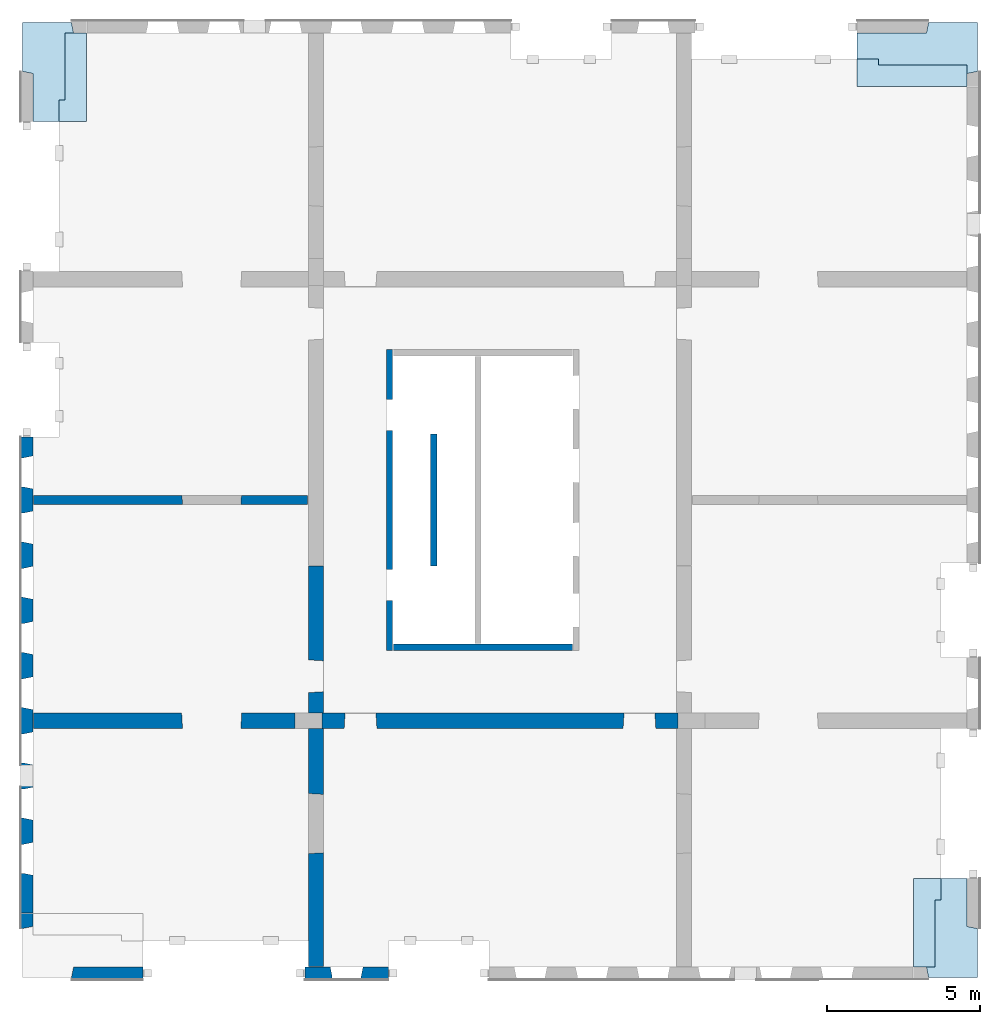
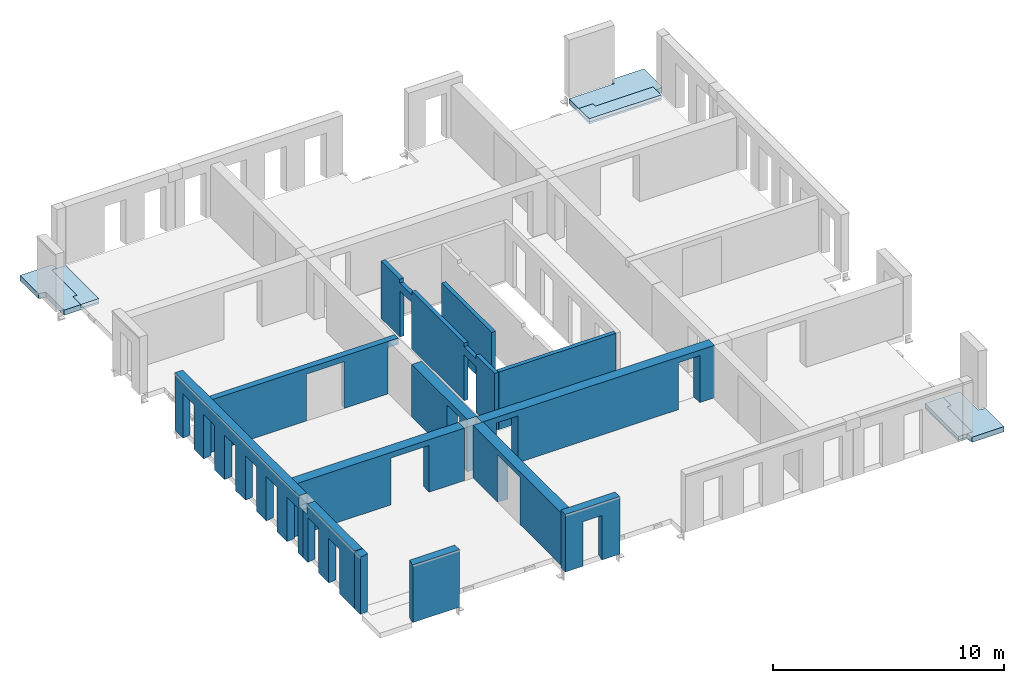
# One storey, part 2 of 5: 13 walls, 6 slabs, 24 openings.
"""IFC2X3 building model written with IfcOpenShell, lengths in millimetres."""

from ifc_helpers import new_model, entity, si_unit, converted_unit, derived_unit, direction, frame, frame_2d, origin, origin_2d_with_axis, place, context, subcontext, project, spatial, polyline, rectangle, outline, extrude, faceted_brep, material, layer, layer_set, layer_usage, type_object, element, save


model = new_model("IFC2X3")

# Units and contexts
model_context = context("Model", 3, precision=0.01, world=origin(), true_north=direction((6.12303176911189e-17, 1.0)))
body_context = subcontext(model_context, "Body", "Model", "MODEL_VIEW")
ifc_project = project(units=[si_unit("LENGTHUNIT", "METRE", prefix="MILLI"), si_unit("AREAUNIT", "SQUARE_METRE"), si_unit("VOLUMEUNIT", "CUBIC_METRE"), converted_unit("PLANEANGLEUNIT", "DEGREE", entity("IfcRatioMeasure", 0.0174532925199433), si_unit("PLANEANGLEUNIT", "RADIAN"), dimensions=[0, 0, 0, 0, 0, 0, 0]), si_unit("MASSUNIT", "GRAM", prefix="KILO"), derived_unit("MASSDENSITYUNIT", [(si_unit("MASSUNIT", "GRAM", prefix="KILO"), 1), (si_unit("LENGTHUNIT", "METRE"), -3)]), si_unit("TIMEUNIT", "SECOND"), si_unit("FREQUENCYUNIT", "HERTZ"), si_unit("THERMODYNAMICTEMPERATUREUNIT", "DEGREE_CELSIUS"), derived_unit("THERMALTRANSMITTANCEUNIT", [(si_unit("MASSUNIT", "GRAM", prefix="KILO"), 1), (si_unit("THERMODYNAMICTEMPERATUREUNIT", "KELVIN"), -1), (si_unit("TIMEUNIT", "SECOND"), -3)]), derived_unit("VOLUMETRICFLOWRATEUNIT", [(si_unit("LENGTHUNIT", "METRE"), 3), (si_unit("TIMEUNIT", "SECOND"), -1)]), si_unit("ELECTRICCURRENTUNIT", "AMPERE"), si_unit("ELECTRICVOLTAGEUNIT", "VOLT"), si_unit("POWERUNIT", "WATT"), si_unit("FORCEUNIT", "NEWTON", prefix="KILO"), si_unit("ILLUMINANCEUNIT", "LUX"), si_unit("LUMINOUSFLUXUNIT", "LUMEN"), si_unit("LUMINOUSINTENSITYUNIT", "CANDELA"), derived_unit("USERDEFINED", [(si_unit("MASSUNIT", "GRAM", prefix="KILO"), -1), (si_unit("LENGTHUNIT", "METRE"), -2), (si_unit("TIMEUNIT", "SECOND"), 3), (si_unit("LUMINOUSFLUXUNIT", "LUMEN"), 1)]), derived_unit("LINEARVELOCITYUNIT", [(si_unit("LENGTHUNIT", "METRE"), 1), (si_unit("TIMEUNIT", "SECOND"), -1)]), si_unit("PRESSUREUNIT", "PASCAL"), derived_unit("USERDEFINED", [(si_unit("LENGTHUNIT", "METRE"), -2), (si_unit("MASSUNIT", "GRAM", prefix="KILO"), 1), (si_unit("TIMEUNIT", "SECOND"), -2)])], contexts=[model_context])

# Site, building, storey
site_placement = place(None, origin())
site = spatial("IfcSite", under=ifc_project, at=site_placement, Name="Default", CompositionType="ELEMENT")
building_placement = place(site_placement, origin())
building = spatial("IfcBuilding", under=site, at=building_placement, Name="niet gebruiken", CompositionType="ELEMENT")
storey_placement = place(building_placement, frame((0.0, 0.0, 24120.0)))
storey = spatial("IfcBuildingStorey", under=building, at=storey_placement, Name="07 zevende verdieping", CompositionType="ELEMENT", Elevation=24120.0)

# Slabs
ifc_material_1 = material(Name="NLRS_f2_beton prefab")
ifc_layer_1 = layer(ifc_material_1, 270.0)
ifc_layer_set_1 = layer_set([ifc_layer_1], Name="Floor:NLRS_23.22_FL_beton prefab d=270 3D element_gen")
ifc_layer_usage_1 = layer_usage(ifc_layer_set_1, "AXIS3", "POSITIVE", 0.0)
slab_1_placement = place(storey_placement, origin())
element("IfcSlab", 1, at=slab_1_placement, inside=storey, material=ifc_layer_usage_1, Name="Floor:NLRS_23.22_FL_beton prefab d=270 3D element_gen", ObjectType="Floor:NLRS_23.22_FL_beton prefab d=270 3D element_gen", PredefinedType="LANDING", context=body_context, shape_type="SweptSolid", body=[
    extrude(outline(polyline([(-962.01841692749, -1072.98158307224), (1927.98158307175, -1072.98158307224), (1927.98158307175, 677.018416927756), (362.981583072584, 677.018416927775), (295.128918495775, 1010.01841692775), (-1295.01841692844, 1010.01841692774), (-1295.01841692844, -580.128918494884), (-962.01841692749, -647.98158307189), (-962.01841692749, -1072.98158307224)])), frame((156302.981583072, 3232.01841692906, -90.0), z_axis=(0.0, 0.0, -1.0), x_axis=(0.0, 1.0, 0.0)), (0.0, 0.0, 1.0), 269.999999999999),
])
ifc_layer_usage_2 = layer_usage(ifc_layer_set_1, "AXIS3", "POSITIVE", 0.0)
slab_2_placement = place(storey_placement, origin())
element("IfcSlab", 2, at=slab_2_placement, inside=storey, material=ifc_layer_usage_2, Name="Floor:NLRS_23.22_FL_beton prefab d=270 3D element_gen", ObjectType="Floor:NLRS_23.22_FL_beton prefab d=270 3D element_gen", PredefinedType="LANDING", context=body_context, shape_type="SweptSolid", body=[
    extrude(outline(polyline([(-295.128918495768, -1010.0184169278), (1295.01841692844, -1010.0184169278), (1295.01841692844, 580.128918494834), (962.018416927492, 647.98158307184), (962.018416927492, 1072.98158307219), (-1927.98158307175, 1072.98158307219), (-1927.98158307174, -677.018416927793), (-362.981583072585, -677.018416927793), (-295.128918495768, -1010.0184169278)])), frame((127197.018416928, 31767.9815830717, -90.0), z_axis=(0.0, 0.0, -1.0), x_axis=(0.0, 1.0, 0.0)), (0.0, 0.0, 1.0), 269.999999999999),
])
ifc_layer_usage_3 = layer_usage(ifc_layer_set_1, "AXIS3", "POSITIVE", 0.0)
slab_3_placement = place(storey_placement, origin())
element("IfcSlab", 3, at=slab_3_placement, inside=storey, material=ifc_layer_usage_3, Name="Floor:NLRS_23.22_FL_beton prefab d=270 3D element_gen", ObjectType="Floor:NLRS_23.22_FL_beton prefab d=270 3D element_gen", PredefinedType="LANDING", context=body_context, shape_type="SweptSolid", body=[
    extrude(outline(polyline([(-1072.98158307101, -2452.9815830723), (677.018416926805, -2452.9815830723), (677.018416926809, -187.981583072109), (1010.01841692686, -120.128918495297), (1010.01841692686, 1470.01841692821), (-580.128918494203, 1470.01841692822), (-647.981583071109, 1137.01841692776), (-1072.981583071, 1137.01841692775), (-1072.98158307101, -2452.9815830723)])), frame((155842.981583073, 32052.9815830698, -90.0), z_axis=(0.0, 0.0, -1.0), x_axis=(0.0, 1.0, 0.0)), (0.0, 0.0, 1.0), 269.999999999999),
])
ifc_material_2 = material(Name="NLRS_f2_beton ihwg")
ifc_layer_2 = layer(ifc_material_2, 170.0)
ifc_layer_set_2 = layer_set([ifc_layer_2], Name="Floor:NLRS_23.21_FL_beton ihwg d=170_gen")
ifc_layer_usage_4 = layer_usage(ifc_layer_set_2, "AXIS3", "POSITIVE", 0.0)
slab_4_placement = place(storey_placement, origin())
element("IfcSlab", 4, at=slab_4_placement, inside=storey, material=ifc_layer_usage_4, Name="Floor:NLRS_23.21_FL_beton ihwg d=170_gen", ObjectType="Floor:NLRS_23.21_FL_beton ihwg d=170_gen", PredefinedType="FLOOR", context=body_context, shape_type="SweptSolid", body=[
    extrude(outline(polyline([(-533.333333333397, -1430.0), (366.666666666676, -1430.0), (366.666666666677, -730.0), (166.666666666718, -730.0), (166.666666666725, 2160.0), (-533.333333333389, 2160.0), (-533.333333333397, -1430.0)])), frame((154820.0, 31513.3333333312, -90.0), z_axis=(0.0, 0.0, -1.0), x_axis=(0.0, 1.0, 0.0)), (0.0, 0.0, 1.0), 170.0),
])
ifc_layer_usage_5 = layer_usage(ifc_layer_set_2, "AXIS3", "POSITIVE", 0.0)
slab_5_placement = place(storey_placement, origin())
element("IfcSlab", 5, at=slab_5_placement, inside=storey, material=ifc_layer_usage_5, Name="Floor:NLRS_23.21_FL_beton ihwg d=170_gen", ObjectType="Floor:NLRS_23.21_FL_beton ihwg d=170_gen", PredefinedType="FLOOR", context=body_context, shape_type="SweptSolid", body=[
    extrude(outline(polyline([(-1693.33333333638, -533.333333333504), (1196.66666666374, -533.333333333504), (1196.66666666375, 366.666666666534), (496.666666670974, 366.666666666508), (496.666666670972, 166.666666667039), (-1693.33333333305, 166.666666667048), (-1693.33333333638, -533.333333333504)])), frame((155763.333333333, 3963.33333333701, -90.0), z_axis=(0.0, 0.0, -1.0), x_axis=(0.0, 1.0, 0.0)), (0.0, 0.0, 1.0), 170.0),
])
ifc_layer_usage_6 = layer_usage(ifc_layer_set_2, "AXIS3", "POSITIVE", 0.0)
slab_6_placement = place(storey_placement, origin())
element("IfcSlab", 6, at=slab_6_placement, inside=storey, material=ifc_layer_usage_6, Name="Floor:NLRS_23.21_FL_beton ihwg d=170_gen", ObjectType="Floor:NLRS_23.21_FL_beton ihwg d=170_gen", PredefinedType="FLOOR", context=body_context, shape_type="SweptSolid", body=[
    extrude(outline(polyline([(-1196.66666666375, -366.666666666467), (-496.666666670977, -366.666666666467), (-496.666666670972, -166.666666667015), (1693.33333333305, -166.666666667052), (1693.33333333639, 533.333333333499), (-1196.66666666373, 533.333333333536), (-1196.66666666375, -366.666666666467)])), frame((127736.666666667, 31036.6666666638, -90.0), z_axis=(0.0, 0.0, -1.0), x_axis=(0.0, 1.0, 0.0)), (0.0, 0.0, 1.0), 170.0),
])

# Wall, openings
ifc_layer_3 = layer(ifc_material_1, 200.0)
ifc_layer_set_3 = layer_set([ifc_layer_3], Name="Basic Wall:NLRS_22.21_WA_beton prefab d=200_gen")
ifc_layer_usage_7 = layer_usage(ifc_layer_set_3, "AXIS2", "NEGATIVE", 100.0)
wall_type_1 = type_object("IfcWallType", Name="Basic Wall:NLRS_22.21_WA_beton prefab d=200_gen", PredefinedType="STANDARD", material=ifc_layer_set_3)
wall_1_placement = place(storey_placement, frame((138150.0, 22400.0, -50.0), z_axis=(0.0, 0.0, 1.0), x_axis=(0.0, -1.0, 0.0)))
wall_1 = element("IfcWallStandardCase", 7, at=wall_1_placement, inside=storey, type_object=wall_type_1, material=ifc_layer_usage_7, Name="Basic Wall:NLRS_22.21_WA_beton prefab d=200_gen", ObjectType="Basic Wall:NLRS_22.21_WA_beton prefab d=200_gen", context=body_context, shape_type="SweptSolid", body=[
    extrude(rectangle(XDim=9800.0, YDim=199.999999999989, at=frame_2d((4900.0, 3.76587649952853e-13), x_axis=(-1.0, 0.0))), origin(), (0.0, 0.0, 1.0), 3039.99999999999),
])
opening_1_placement = place(wall_1_placement, origin())
element("IfcOpeningElement", 8, at=opening_1_placement, cuts=wall_1, Name="Basic Wall:NLRS_22.21_WA_beton prefab d=200_gen", ObjectType="Opening", context=body_context, shape_type="SweptSolid", body=[
    extrude(rectangle(XDim=199.999999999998, YDim=1044.0, at=origin_2d_with_axis()), frame((7672.0, -100.0, 2940.0), z_axis=(0.0, 1.0, 0.0), x_axis=(0.0, 0.0, -1.0)), (0.0, 0.0, 1.0), 199.999999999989),
])
opening_2_placement = place(wall_1_placement, origin())
element("IfcOpeningElement", 9, at=opening_2_placement, cuts=wall_1, Name="Basic Wall:NLRS_22.21_WA_beton prefab d=200_gen", ObjectType="Opening", context=body_context, shape_type="SweptSolid", body=[
    extrude(rectangle(XDim=199.999999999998, YDim=1044.0, at=frame_2d((0.0, 2.1600499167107e-12), x_axis=(1.0, 0.0))), frame((2128.0, -100.0, 2940.0), z_axis=(0.0, 1.0, 0.0), x_axis=(0.0, 0.0, -1.0)), (0.0, 0.0, 1.0), 199.999999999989),
])
opening_3_placement = place(wall_1_placement, origin())
element("IfcOpeningElement", 10, at=opening_3_placement, cuts=wall_1, Name="Basic Wall:NLRS_22.21_WA_beton prefab d=200_gen", ObjectType="Opening", context=body_context, shape_type="SweptSolid", body=[
    extrude(rectangle(XDim=2435.00000000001, YDim=1015.99999999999, at=frame_2d((0.0, 1.10844666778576e-12), x_axis=(1.0, 0.0))), frame((7672.0, -100.0, 1217.50000000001), z_axis=(0.0, 1.0, 0.0), x_axis=(0.0, 0.0, -1.0)), (0.0, 0.0, 1.0), 199.999999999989),
])
opening_4_placement = place(wall_1_placement, origin())
element("IfcOpeningElement", 11, at=opening_4_placement, cuts=wall_1, Name="Basic Wall:NLRS_22.21_WA_beton prefab d=200_gen", ObjectType="Opening", context=body_context, shape_type="SweptSolid", body=[
    extrude(rectangle(XDim=2435.00000000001, YDim=1015.99999999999, at=frame_2d((0.0, -2.18847162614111e-12), x_axis=(1.0, 0.0))), frame((2128.0, -100.0, 1217.50000000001), z_axis=(0.0, 1.0, 0.0), x_axis=(0.0, 0.0, -1.0)), (0.0, 0.0, 1.0), 199.999999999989),
])

# Walls
ifc_layer_usage_8 = layer_usage(ifc_layer_set_3, "AXIS2", "NEGATIVE", 100.0)
wall_2_placement = place(storey_placement, frame((139590.0, 19660.0, -50.0), z_axis=(0.0, 0.0, 1.0), x_axis=(0.0, -1.0, 0.0)))
element("IfcWallStandardCase", 12, at=wall_2_placement, inside=storey, type_object=wall_type_1, material=ifc_layer_usage_8, Name="Basic Wall:NLRS_22.21_WA_beton prefab d=200_gen", ObjectType="Basic Wall:NLRS_22.21_WA_beton prefab d=200_gen", context=body_context, shape_type="SweptSolid", body=[
    extrude(rectangle(XDim=4320.00000000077, YDim=199.999999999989, at=frame_2d((2160.00000000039, 0.0), x_axis=(-1.0, 0.0))), origin(), (0.0, 0.0, 1.0), 3039.99999999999),
])
ifc_layer_usage_9 = layer_usage(ifc_layer_set_3, "AXIS2", "NEGATIVE", 100.0)
wall_3_placement = place(storey_placement, frame((138270.0, 12700.0, -50.0)))
element("IfcWallStandardCase", 13, at=wall_3_placement, inside=storey, type_object=wall_type_1, material=ifc_layer_usage_9, Name="Basic Wall:NLRS_22.21_WA_beton prefab d=200_gen", ObjectType="Basic Wall:NLRS_22.21_WA_beton prefab d=200_gen", context=body_context, shape_type="SweptSolid", body=[
    extrude(rectangle(XDim=5839.99999999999, YDim=199.999999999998, at=frame_2d((2919.99999999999, -6.82121026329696e-13), x_axis=(-1.0, 0.0))), origin(), (0.0, 0.0, 1.0), 3039.99999999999),
])

# Wall, openings
ifc_layer_4 = layer(ifc_material_1, 300.0)
ifc_layer_set_4 = layer_set([ifc_layer_4], Name="Basic Wall:NLRS_22.21_WA_beton prefab d=300_gen")
ifc_layer_usage_10 = layer_usage(ifc_layer_set_4, "AXIS2", "NEGATIVE", 150.0)
wall_type_2 = type_object("IfcWallType", Name="Basic Wall:NLRS_22.21_WA_beton prefab d=300_gen", PredefinedType="STANDARD", material=ifc_layer_set_4)
wall_4_placement = place(storey_placement, frame((126540.0, 17500.0, -70.0)))
wall_4 = element("IfcWallStandardCase", 14, at=wall_4_placement, inside=storey, type_object=wall_type_2, material=ifc_layer_usage_10, Name="Basic Wall:NLRS_22.21_WA_beton prefab d=300_gen", ObjectType="Basic Wall:NLRS_22.21_WA_beton prefab d=300_gen", context=body_context, shape_type="SweptSolid", body=[
    extrude(rectangle(XDim=9459.99999999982, YDim=300.000000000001, at=frame_2d((4729.99999999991, 2.27373675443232e-13), x_axis=(-1.0, 0.0))), origin(), (0.0, 0.0, 1.0), 2770.0),
])
opening_5_placement = place(wall_4_placement, frame((4842.0, -150.0, 0.0)))
element("IfcOpeningElement", 15, at=opening_5_placement, cuts=wall_4, Name="Basic Wall:NLRS_22.21_WA_beton prefab d=300_gen", ObjectType="Opening", context=body_context, shape_type="Brep", body=[
    faceted_brep([(1918.0, 0.0, 2470.0), (18.0, 0.0, 2470.0), (18.0, 0.0, 0.0), (1918.0, 0.0, 0.0), (1936.0, 300.0, 2488.0), (1936.0, 300.0, 0.0), (0.0, 300.0, 0.0), (0.0, 300.0, 2488.0)], [[[0, 1, 2, 3]], [[4, 5, 6, 7]], [[4, 7, 1, 0]], [[7, 6, 2, 1]], [[6, 5, 3, 2]], [[5, 4, 0, 3]]]),
])
opening_6_placement = place(wall_4_placement, origin())
element("IfcOpeningElement", 16, at=opening_6_placement, cuts=wall_4, Name="Basic Wall:NLRS_22.21_WA_beton prefab d=300_gen", ObjectType="Opening", context=body_context, shape_type="SweptSolid", body=[
    extrude(rectangle(XDim=2440.0, YDim=520.000000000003, at=frame_2d((8.64019966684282e-12, 2.1600499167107e-12), x_axis=(0.0, 1.0))), frame((9200.0, 150.0, 1220.0), z_axis=(0.0, -1.0, 0.0), x_axis=(1.0, 0.0, 0.0)), (0.0, 0.0, 1.0), 300.0),
])

# Wall, opening
ifc_layer_5 = layer(ifc_material_1, 400.0)
ifc_layer_set_5 = layer_set([ifc_layer_5], Name="Basic Wall:NLRS_21.21_WA_beton prefab d=400/420_gen")
ifc_layer_usage_11 = layer_usage(ifc_layer_set_5, "AXIS2", "NEGATIVE", 200.0)
wall_type_3 = type_object("IfcWallType", Name="Basic Wall:NLRS_21.21_WA_beton prefab d=400/420_gen", PredefinedType="STANDARD", material=ifc_layer_set_5)
wall_5_placement = place(storey_placement, frame((130110.0, 2070.0, -50.0), z_axis=(0.0, 0.0, 1.0), x_axis=(-1.0, 0.0, 0.0)))
wall_5 = element("IfcWallStandardCase", 17, at=wall_5_placement, inside=storey, type_object=wall_type_3, material=ifc_layer_usage_11, Name="Basic Wall:NLRS_21.21_WA_beton prefab d=400/420_gen", ObjectType="Basic Wall:NLRS_21.21_WA_beton prefab d=400/420_gen", context=body_context, shape_type="SweptSolid", body=[
    extrude(rectangle(XDim=2330.00000000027, YDim=400.0, at=frame_2d((1165.00000000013, -4.2632564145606e-14), x_axis=(-1.0, 0.0))), origin(), (0.0, 0.0, 1.0), 3040.0),
])
opening_7_placement = place(wall_5_placement, frame((2330.0, 119.0, 0.0)))
element("IfcOpeningElement", 18, at=opening_7_placement, cuts=wall_5, Name="Basic Wall:NLRS_21.21_WA_beton prefab d=400/420_gen", ObjectType="Opening", context=body_context, shape_type="Brep", body=[
    faceted_brep([(0.0, -319.0, 3040.0), (0.0, 0.0, 3040.0), (-65.0, -319.0, 3040.0), (0.0, -319.0, 0.0), (-65.0, -319.0, 0.0), (0.0, 0.0, 0.0)], [[[0, 1, 2]], [[3, 4, 5]], [[2, 4, 3, 0]], [[0, 3, 5, 1]], [[1, 5, 4, 2]]]),
])

ifc_layer_usage_12 = layer_usage(ifc_layer_set_5, "AXIS2", "NEGATIVE", 200.0)
wall_6_placement = place(storey_placement, frame((126320.0, 3530.0, -50.0), z_axis=(0.0, 0.0, 1.0), x_axis=(0.0, 1.0, 0.0)))
wall_6 = element("IfcWallStandardCase", 19, at=wall_6_placement, inside=storey, type_object=wall_type_3, material=ifc_layer_usage_12, Name="Basic Wall:NLRS_21.21_WA_beton prefab d=400/420_gen", ObjectType="Basic Wall:NLRS_21.21_WA_beton prefab d=400/420_gen", context=body_context, shape_type="SweptSolid", body=[
    extrude(rectangle(XDim=490.000000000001, YDim=400.000000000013, at=frame_2d((245.0, -4.2490455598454e-12), x_axis=(-1.0, 0.0))), origin(), (0.0, 0.0, 1.0), 3040.0),
])
opening_8_placement = place(wall_6_placement, frame((0.0, 119.0, 0.0)))
element("IfcOpeningElement", 20, at=opening_8_placement, cuts=wall_6, Name="Basic Wall:NLRS_21.21_WA_beton prefab d=400/420_gen", ObjectType="Opening", context=body_context, shape_type="Brep", body=[
    faceted_brep([(0.0, -319.0, 3040.0), (65.0, -319.0, 3040.0), (0.0, 0.0, 3040.0), (0.0, -319.0, 0.0), (0.0, 0.0, 0.0), (65.0, -319.0, 0.0)], [[[0, 1, 2]], [[3, 4, 5]], [[1, 0, 3, 5]], [[0, 2, 4, 3]], [[2, 1, 5, 4]]]),
])

# Wall, openings
ifc_layer_usage_13 = layer_usage(ifc_layer_set_5, "AXIS2", "NEGATIVE", 200.0)
wall_7_placement = place(storey_placement, frame((126320.0, 4040.0, -50.0), z_axis=(0.0, 0.0, 1.0), x_axis=(0.0, 1.0, 0.0)))
wall_7 = element("IfcWallStandardCase", 21, at=wall_7_placement, inside=storey, type_object=wall_type_3, material=ifc_layer_usage_13, Name="Basic Wall:NLRS_21.21_WA_beton prefab d=400/420_gen", ObjectType="Basic Wall:NLRS_21.21_WA_beton prefab d=400/420_gen", context=body_context, shape_type="SweptSolid", body=[
    extrude(rectangle(XDim=4460.00000000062, YDim=400.000000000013, at=frame_2d((2230.00000000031, 0.0), x_axis=(-1.0, 0.0))), origin(), (0.0, 0.0, 1.0), 3040.0),
])
opening_9_placement = place(wall_7_placement, frame((1225.0, 200.0, -20.0)))
element("IfcOpeningElement", 22, at=opening_9_placement, cuts=wall_7, Name="Basic Wall:NLRS_21.21_WA_beton prefab d=400/420_gen", ObjectType="Opening", context=body_context, shape_type="Brep", body=[
    faceted_brep([(0.0, -400.0, 2405.0), (0.0, -400.0, 0.0), (1070.0, -400.0, 0.0), (1070.0, -400.0, 2405.0), (1005.0, -81.0, 2370.0), (65.0, -81.0, 2370.0), (1005.0, -81.0, 0.0), (65.0, -81.0, 0.0), (65.0, 0.0, 0.0), (1005.0, 0.0, 0.0), (65.0, 0.0, 2370.0), (1005.0, 0.0, 2370.0)], [[[0, 1, 2, 3]], [[3, 4, 5, 0]], [[2, 6, 4, 3]], [[1, 7, 8, 9, 6, 2]], [[0, 5, 7, 1]], [[10, 11, 9, 8]], [[10, 5, 4, 11]], [[11, 4, 6, 9]], [[8, 7, 5, 10]]]),
])
opening_10_placement = place(wall_7_placement, frame((3025.0, 200.0, -20.0)))
element("IfcOpeningElement", 23, at=opening_10_placement, cuts=wall_7, Name="Basic Wall:NLRS_21.21_WA_beton prefab d=400/420_gen", ObjectType="Opening", context=body_context, shape_type="Brep", body=[
    faceted_brep([(0.0, -400.0, 2405.0), (0.0, -400.0, 0.0), (1070.0, -400.0, 0.0), (1070.0, -400.0, 2405.0), (1005.0, -81.0, 2370.0), (65.0, -81.0, 2370.0), (1005.0, -81.0, 0.0), (65.0, -81.0, 0.0), (65.0, 0.0, 0.0), (1005.0, 0.0, 0.0), (65.0, 0.0, 2370.0), (1005.0, 0.0, 2370.0)], [[[0, 1, 2, 3]], [[3, 4, 5, 0]], [[2, 6, 4, 3]], [[1, 7, 8, 9, 6, 2]], [[0, 5, 7, 1]], [[10, 11, 9, 8]], [[10, 5, 4, 11]], [[11, 4, 6, 9]], [[8, 7, 5, 10]]]),
])
opening_11_placement = place(wall_7_placement, origin())
element("IfcOpeningElement", 24, at=opening_11_placement, cuts=wall_7, Name="Basic Wall:NLRS_21.21_WA_beton prefab d=400/420_gen", ObjectType="Opening", context=body_context, shape_type="SweptSolid", body=[
    extrude(rectangle(XDim=535.0, YDim=345.000000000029, at=frame_2d((0.0, 5.40012479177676e-13), x_axis=(1.0, 0.0))), frame((4287.5000000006, 200.0, 2772.5), z_axis=(0.0, -1.0, 0.0), x_axis=(0.0, 0.0, 1.0)), (0.0, 0.0, 1.0), 400.0),
])

# Wall, opening
ifc_layer_usage_14 = layer_usage(ifc_layer_set_5, "AXIS2", "NEGATIVE", 200.0)
wall_8_placement = place(storey_placement, frame((138110.0, 2070.0, -50.0), z_axis=(0.0, 0.0, 1.0), x_axis=(-1.0, 0.0, 0.0)))
wall_8 = element("IfcWallStandardCase", 25, at=wall_8_placement, inside=storey, type_object=wall_type_3, material=ifc_layer_usage_14, Name="Basic Wall:NLRS_21.21_WA_beton prefab d=400/420_gen", ObjectType="Basic Wall:NLRS_21.21_WA_beton prefab d=400/420_gen", context=body_context, shape_type="SweptSolid", body=[
    extrude(rectangle(XDim=2720.00000000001, YDim=400.0, at=frame_2d((1360.0, -7.105427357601e-14), x_axis=(-1.0, 0.0))), origin(), (0.0, 0.0, 1.0), 3040.0),
])
opening_12_placement = place(wall_8_placement, frame((1895.0, 200.0, -20.0)))
element("IfcOpeningElement", 26, at=opening_12_placement, cuts=wall_8, Name="Basic Wall:NLRS_21.21_WA_beton prefab d=400/420_gen", ObjectType="Opening", context=body_context, shape_type="Brep", body=[
    faceted_brep([(-1070.0, -400.0, 2405.0), (-1070.0, -400.0, 0.0), (0.0, -400.0, 0.0), (0.0, -400.0, 2405.0), (-65.0, -81.0, 2370.0), (-1005.0, -81.0, 2370.0), (-65.0, -81.0, 0.0), (-1005.0, -81.0, 0.0), (-1005.0, 0.0, 0.0), (-65.0, 0.0, 0.0), (-1005.0, 0.0, 2370.0), (-65.0, 0.0, 2370.0)], [[[0, 1, 2, 3]], [[3, 4, 5, 0]], [[2, 6, 4, 3]], [[1, 7, 8, 9, 6, 2]], [[0, 5, 7, 1]], [[10, 11, 9, 8]], [[10, 5, 4, 11]], [[11, 4, 6, 9]], [[8, 7, 5, 10]]]),
])

# Wall, openings
ifc_layer_usage_15 = layer_usage(ifc_layer_set_5, "AXIS2", "NEGATIVE", 200.0)
wall_9_placement = place(storey_placement, frame((126320.0, 8510.0, -50.0), z_axis=(0.0, 0.0, 1.0), x_axis=(0.0, 1.0, 0.0)))
wall_9 = element("IfcWallStandardCase", 27, at=wall_9_placement, inside=storey, type_object=wall_type_3, material=ifc_layer_usage_15, Name="Basic Wall:NLRS_21.21_WA_beton prefab d=400/420_gen", ObjectType="Basic Wall:NLRS_21.21_WA_beton prefab d=400/420_gen", context=body_context, shape_type="SweptSolid", body=[
    extrude(rectangle(XDim=11050.0000000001, YDim=400.000000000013, at=frame_2d((5525.00000000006, 0.0), x_axis=(-1.0, 0.0))), origin(), (0.0, 0.0, 1.0), 3040.0),
])
opening_13_placement = place(wall_9_placement, frame((9355.0, 200.0, -20.0)))
element("IfcOpeningElement", 28, at=opening_13_placement, cuts=wall_9, Name="Basic Wall:NLRS_21.21_WA_beton prefab d=400/420_gen", ObjectType="Opening", context=body_context, shape_type="Brep", body=[
    faceted_brep([(0.0, -400.0, 2405.0), (0.0, -400.0, 0.0), (1070.0, -400.0, 0.0), (1070.0, -400.0, 2405.0), (1005.0, -81.0, 2370.0), (65.0, -81.0, 2370.0), (1005.0, -81.0, 0.0), (65.0, -81.0, 0.0), (65.0, 0.0, 0.0), (1005.0, 0.0, 0.0), (65.0, 0.0, 2370.0), (1005.0, 0.0, 2370.0)], [[[0, 1, 2, 3]], [[3, 4, 5, 0]], [[2, 6, 4, 3]], [[1, 7, 8, 9, 6, 2]], [[0, 5, 7, 1]], [[10, 11, 9, 8]], [[10, 5, 4, 11]], [[11, 4, 6, 9]], [[8, 7, 5, 10]]]),
])
opening_14_placement = place(wall_9_placement, frame((5755.0, 200.0, -20.0)))
element("IfcOpeningElement", 29, at=opening_14_placement, cuts=wall_9, Name="Basic Wall:NLRS_21.21_WA_beton prefab d=400/420_gen", ObjectType="Opening", context=body_context, shape_type="Brep", body=[
    faceted_brep([(0.0, -400.0, 2405.0), (0.0, -400.0, 0.0), (1070.0, -400.0, 0.0), (1070.0, -400.0, 2405.0), (1005.0, -81.0, 2370.0), (65.0, -81.0, 2370.0), (1005.0, -81.0, 0.0), (65.0, -81.0, 0.0), (65.0, 0.0, 0.0), (1005.0, 0.0, 0.0), (65.0, 0.0, 2370.0), (1005.0, 0.0, 2370.0)], [[[0, 1, 2, 3]], [[3, 4, 5, 0]], [[2, 6, 4, 3]], [[1, 7, 8, 9, 6, 2]], [[0, 5, 7, 1]], [[10, 11, 9, 8]], [[10, 5, 4, 11]], [[11, 4, 6, 9]], [[8, 7, 5, 10]]]),
])
opening_15_placement = place(wall_9_placement, frame((3955.0, 200.0, -20.0)))
element("IfcOpeningElement", 30, at=opening_15_placement, cuts=wall_9, Name="Basic Wall:NLRS_21.21_WA_beton prefab d=400/420_gen", ObjectType="Opening", context=body_context, shape_type="Brep", body=[
    faceted_brep([(0.0, -400.0, 2405.0), (0.0, -400.0, 0.0), (1070.0, -400.0, 0.0), (1070.0, -400.0, 2405.0), (1005.0, -81.0, 2370.0), (65.0, -81.0, 2370.0), (1005.0, -81.0, 0.0), (65.0, -81.0, 0.0), (65.0, 0.0, 0.0), (1005.0, 0.0, 0.0), (65.0, 0.0, 2370.0), (1005.0, 0.0, 2370.0)], [[[0, 1, 2, 3]], [[3, 4, 5, 0]], [[2, 6, 4, 3]], [[1, 7, 8, 9, 6, 2]], [[0, 5, 7, 1]], [[10, 11, 9, 8]], [[10, 5, 4, 11]], [[11, 4, 6, 9]], [[8, 7, 5, 10]]]),
])
opening_16_placement = place(wall_9_placement, frame((7555.0, 200.0, -20.0)))
element("IfcOpeningElement", 31, at=opening_16_placement, cuts=wall_9, Name="Basic Wall:NLRS_21.21_WA_beton prefab d=400/420_gen", ObjectType="Opening", context=body_context, shape_type="Brep", body=[
    faceted_brep([(0.0, -400.0, 2405.0), (0.0, -400.0, 0.0), (1070.0, -400.0, 0.0), (1070.0, -400.0, 2405.0), (1005.0, -81.0, 2370.0), (65.0, -81.0, 2370.0), (1005.0, -81.0, 0.0), (65.0, -81.0, 0.0), (65.0, 0.0, 0.0), (1005.0, 0.0, 0.0), (65.0, 0.0, 2370.0), (1005.0, 0.0, 2370.0)], [[[0, 1, 2, 3]], [[3, 4, 5, 0]], [[2, 6, 4, 3]], [[1, 7, 8, 9, 6, 2]], [[0, 5, 7, 1]], [[10, 11, 9, 8]], [[10, 5, 4, 11]], [[11, 4, 6, 9]], [[8, 7, 5, 10]]]),
])
opening_17_placement = place(wall_9_placement, frame((2155.0, 200.0, -20.0)))
element("IfcOpeningElement", 32, at=opening_17_placement, cuts=wall_9, Name="Basic Wall:NLRS_21.21_WA_beton prefab d=400/420_gen", ObjectType="Opening", context=body_context, shape_type="Brep", body=[
    faceted_brep([(1070.0, -400.0, 2405.0), (0.0, -400.0, 2405.0), (0.0, -400.0, 0.0), (1070.0, -400.0, 0.0), (1005.0, -81.0, 2370.0), (65.0, -81.0, 2370.0), (65.0, -81.0, 0.0), (65.0, 0.0, 0.0), (1005.0, 0.0, 0.0), (1005.0, -81.0, 0.0), (1005.0, 0.0, 2370.0), (65.0, 0.0, 2370.0)], [[[0, 1, 2, 3]], [[1, 0, 4, 5]], [[2, 1, 5, 6]], [[3, 2, 6, 7, 8, 9]], [[0, 3, 9, 4]], [[10, 8, 7, 11]], [[10, 11, 5, 4]], [[11, 7, 6, 5]], [[8, 10, 4, 9]]]),
])
opening_18_placement = place(wall_9_placement, frame((355.0, 200.0, -20.0)))
element("IfcOpeningElement", 33, at=opening_18_placement, cuts=wall_9, Name="Basic Wall:NLRS_21.21_WA_beton prefab d=400/420_gen", ObjectType="Opening", context=body_context, shape_type="Brep", body=[
    faceted_brep([(1070.0, -400.0, 2405.0), (0.0, -400.0, 2405.0), (0.0, -400.0, 0.0), (1070.0, -400.0, 0.0), (1005.0, -81.0, 2370.0), (65.0, -81.0, 2370.0), (65.0, -81.0, 0.0), (65.0, 0.0, 0.0), (1005.0, 0.0, 0.0), (1005.0, -81.0, 0.0), (1005.0, 0.0, 2370.0), (65.0, 0.0, 2370.0)], [[[0, 1, 2, 3]], [[1, 0, 4, 5]], [[2, 1, 5, 6]], [[3, 2, 6, 7, 8, 9]], [[0, 3, 9, 4]], [[10, 8, 7, 11]], [[10, 11, 5, 4]], [[11, 7, 6, 5]], [[8, 10, 4, 9]]]),
])
opening_19_placement = place(wall_9_placement, origin())
element("IfcOpeningElement", 34, at=opening_19_placement, cuts=wall_9, Name="Basic Wall:NLRS_21.21_WA_beton prefab d=400/420_gen", ObjectType="Opening", context=body_context, shape_type="SweptSolid", body=[
    extrude(rectangle(XDim=535.0, YDim=344.999999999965, at=frame_2d((0.0, 0.0), x_axis=(0.0, 1.0))), frame((172.499999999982, 200.0, 2772.5), z_axis=(0.0, -1.0, 0.0), x_axis=(-1.0, 0.0, 0.0)), (0.0, 0.0, 1.0), 400.0),
])

# Wall, opening
ifc_layer_6 = layer(ifc_material_1, 500.0)
ifc_layer_set_6 = layer_set([ifc_layer_6], Name="Basic Wall:NLRS_22.21_WA_beton prefab d=500_gen")
ifc_layer_usage_16 = layer_usage(ifc_layer_set_6, "AXIS2", "NEGATIVE", 250.0)
wall_type_4 = type_object("IfcWallType", Name="Basic Wall:NLRS_22.21_WA_beton prefab d=500_gen", PredefinedType="STANDARD", material=ifc_layer_set_6)
wall_10_placement = place(storey_placement, frame((135750.0, 10050.0115507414, -70.0), z_axis=(0.0, 0.0, 1.0), x_axis=(0.0, -1.0, 0.0)))
wall_10 = element("IfcWallStandardCase", 35, at=wall_10_placement, inside=storey, type_object=wall_type_4, material=ifc_layer_usage_16, Name="Basic Wall:NLRS_22.21_WA_beton prefab d=500_gen", ObjectType="Basic Wall:NLRS_22.21_WA_beton prefab d=500_gen", context=body_context, shape_type="SweptSolid", body=[
    extrude(rectangle(XDim=7760.01155073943, YDim=499.99999999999, at=frame_2d((3880.00577536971, -1.4210854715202e-14), x_axis=(-1.0, 0.0))), origin(), (0.0, 0.0, 1.0), 2770.0),
])
opening_20_placement = place(wall_10_placement, frame((4080.01155074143, -250.0, 0.0)))
element("IfcOpeningElement", 36, at=opening_20_placement, cuts=wall_10, Name="Basic Wall:NLRS_22.21_WA_beton prefab d=500_gen", ObjectType="Opening", context=body_context, shape_type="Brep", body=[
    faceted_brep([(-30.0, 500.0, 2470.0), (-30.0, 500.0, 0.0), (-1930.0, 500.0, 0.0), (-1930.0, 500.0, 2470.0), (0.0, 0.0, 2500.0), (-1960.0, 0.0, 2500.0), (-1960.0, 0.0, 0.0), (0.0, 0.0, 0.0)], [[[0, 1, 2, 3]], [[4, 5, 6, 7]], [[4, 0, 3, 5]], [[5, 3, 2, 6]], [[6, 2, 1, 7]], [[7, 1, 0, 4]]]),
])

# Wall, openings
ifc_layer_usage_17 = layer_usage(ifc_layer_set_6, "AXIS2", "NEGATIVE", 250.0)
wall_11_placement = place(storey_placement, frame((135950.003540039, 10300.0, -70.0)))
wall_11 = element("IfcWallStandardCase", 37, at=wall_11_placement, inside=storey, type_object=wall_type_4, material=ifc_layer_usage_17, Name="Basic Wall:NLRS_22.21_WA_beton prefab d=500_gen", ObjectType="Basic Wall:NLRS_22.21_WA_beton prefab d=500_gen", context=body_context, shape_type="SweptSolid", body=[
    extrude(rectangle(XDim=11599.9964599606, YDim=499.999999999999, at=frame_2d((5799.9982299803, 1.4210854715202e-13), x_axis=(-1.0, 0.0))), origin(), (0.0, 0.0, 1.0), 2770.00000000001),
])
opening_21_placement = place(wall_11_placement, frame((719.996459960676, -250.0, 0.0)))
element("IfcOpeningElement", 38, at=opening_21_placement, cuts=wall_11, Name="Basic Wall:NLRS_22.21_WA_beton prefab d=500_gen", ObjectType="Opening", context=body_context, shape_type="Brep", body=[
    faceted_brep([(0.0, 0.0, 2478.0), (30.0, 500.0, 2448.0), (30.0, 500.0, 0.0), (0.0, 0.0, 0.0), (1036.0, 500.0, 0.0), (1066.0, 0.0, 0.0), (1036.0, 500.0, 2448.0), (1066.0, 0.0, 2478.0)], [[[0, 1, 2, 3]], [[3, 2, 4, 5]], [[6, 4, 2, 1]], [[7, 0, 3, 5]], [[7, 6, 1, 0]], [[5, 4, 6, 7]]]),
])
opening_22_placement = place(wall_11_placement, frame((9813.99645996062, -250.0, 0.0)))
element("IfcOpeningElement", 39, at=opening_22_placement, cuts=wall_11, Name="Basic Wall:NLRS_22.21_WA_beton prefab d=500_gen", ObjectType="Opening", context=body_context, shape_type="Brep", body=[
    faceted_brep([(0.0, 0.0, 2478.0), (30.0, 500.0, 2448.0), (30.0, 500.0, 0.0), (0.0, 0.0, 0.0), (1036.0, 500.0, 0.0), (1066.0, 0.0, 0.0), (1036.0, 500.0, 2448.0), (1066.0, 0.0, 2478.0)], [[[0, 1, 2, 3]], [[3, 2, 4, 5]], [[6, 4, 2, 1]], [[7, 0, 3, 5]], [[7, 6, 1, 0]], [[5, 4, 6, 7]]]),
])

# Wall, opening
ifc_layer_usage_18 = layer_usage(ifc_layer_set_6, "AXIS2", "NEGATIVE", 250.0)
wall_12_placement = place(storey_placement, frame((126540.0, 10300.0, -70.0)))
wall_12 = element("IfcWallStandardCase", 40, at=wall_12_placement, inside=storey, type_object=wall_type_4, material=ifc_layer_usage_18, Name="Basic Wall:NLRS_22.21_WA_beton prefab d=500_gen", ObjectType="Basic Wall:NLRS_22.21_WA_beton prefab d=500_gen", context=body_context, shape_type="SweptSolid", body=[
    extrude(rectangle(XDim=8530.0035400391, YDim=499.999999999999, at=frame_2d((4265.00177001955, -3.5527136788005e-13), x_axis=(-1.0, 0.0))), origin(), (0.0, 0.0, 1.0), 2770.0),
])
opening_23_placement = place(wall_12_placement, frame((4830.0, -250.0, 0.0)))
element("IfcOpeningElement", 41, at=opening_23_placement, cuts=wall_12, Name="Basic Wall:NLRS_22.21_WA_beton prefab d=500_gen", ObjectType="Opening", context=body_context, shape_type="Brep", body=[
    faceted_brep([(1930.0, 0.0, 2470.0), (30.0, 0.0, 2470.0), (30.0, 0.0, 0.0), (1930.0, 0.0, 0.0), (1960.0, 500.0, 2500.0), (1960.0, 500.0, 0.0), (0.0, 500.0, 0.0), (0.0, 500.0, 2500.0)], [[[0, 1, 2, 3]], [[4, 5, 6, 7]], [[4, 7, 1, 0]], [[7, 6, 2, 1]], [[6, 5, 3, 2]], [[5, 4, 0, 3]]]),
])

ifc_layer_usage_19 = layer_usage(ifc_layer_set_6, "AXIS2", "NEGATIVE", 250.0)
wall_13_placement = place(storey_placement, frame((135750.0, 15340.0, -70.0), z_axis=(0.0, 0.0, 1.0), x_axis=(0.0, -1.0, 0.0)))
wall_13 = element("IfcWallStandardCase", 42, at=wall_13_placement, inside=storey, type_object=wall_type_4, material=ifc_layer_usage_19, Name="Basic Wall:NLRS_22.21_WA_beton prefab d=500_gen", ObjectType="Basic Wall:NLRS_22.21_WA_beton prefab d=500_gen", context=body_context, shape_type="SweptSolid", body=[
    extrude(rectangle(XDim=4789.98844925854, YDim=499.99999999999, at=frame_2d((2394.99422462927, 0.0), x_axis=(-1.0, 0.0))), origin(), (0.0, 0.0, 1.0), 2770.00000000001),
])
opening_24_placement = place(wall_13_placement, frame((4120.0, -250.0, 0.0)))
element("IfcOpeningElement", 43, at=opening_24_placement, cuts=wall_13, Name="Basic Wall:NLRS_22.21_WA_beton prefab d=500_gen", ObjectType="Opening", context=body_context, shape_type="Brep", body=[
    faceted_brep([(-1066.0, 0.0, 2478.0), (-1036.0, 500.0, 2448.0), (-1036.0, 500.0, 0.0), (-1066.0, 0.0, 0.0), (-30.0, 500.0, 0.0), (0.0, 0.0, 0.0), (-30.0, 500.0, 2448.0), (0.0, 0.0, 2478.0)], [[[0, 1, 2, 3]], [[3, 2, 4, 5]], [[6, 4, 2, 1]], [[7, 0, 3, 5]], [[7, 6, 1, 0]], [[5, 4, 6, 7]]]),
])

save(model, "model.ifc")
